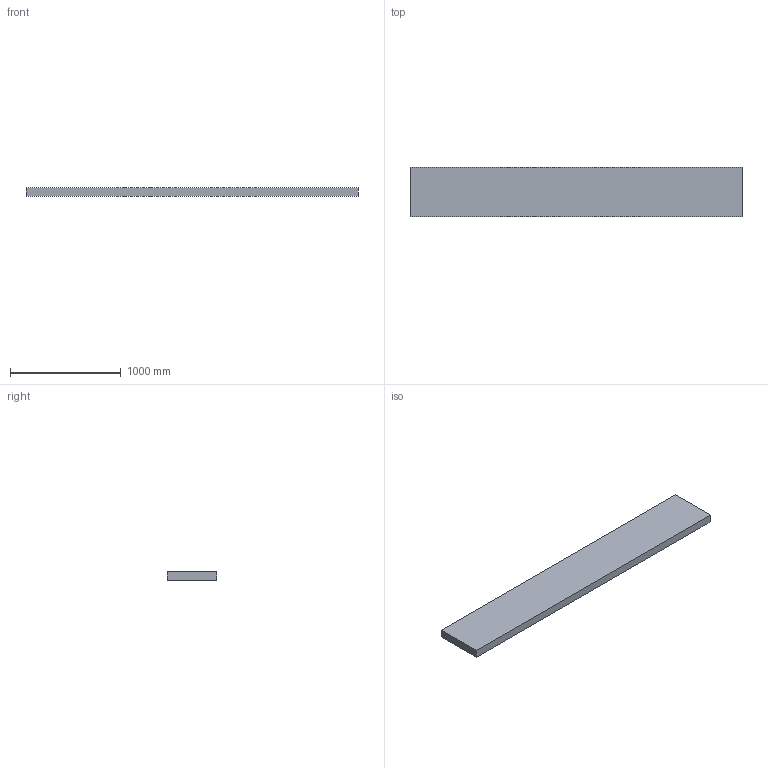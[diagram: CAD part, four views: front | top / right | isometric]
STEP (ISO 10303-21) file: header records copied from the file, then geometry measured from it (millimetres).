
FILE_DESCRIPTION(('CAx-IF Rec.Pracs.---Model Styling and Organization---1.2---2011-12-15','CAx-IF Rec.Pracs.---Geometric and Assembly Validation Properties---4.1---2014-06-16','CAx-IF Rec.Pracs.---PMI Polyline Presentation---2.0---2013-05-24'),'2;1');
FILE_NAME('topo.stp','2025-09-10T13:05:17+08:00',(' '),(' '),'HyperWorksVersion-2021.0.0.33','3D_Kernel_IO2020 SP3 by CT CoreTechnologie',' ');
FILE_SCHEMA(('AUTOMOTIVE_DESIGN { 1 0 10303 214 1 1 1 1 }'));
Length unit declared in the file: millimetre
Products named in the file (1): Model
Bounding box: 3000 x 450 x 75 mm (x, y, z)
Volume: 101250000 mm3; surface area: 3217500 mm2
Topology: 1 solids, 1 shells, 6 faces, 12 edges, 8 vertices
Faces by surface type: bspline 4, plane 2
Entity records: 221 total; most frequent: CARTESIAN_POINT 39, ORIENTED_EDGE 24, DIRECTION 18, VECTOR 12, LINE 12, EDGE_CURVE 12, VERTEX_POINT 8, EDGE_LOOP 6
